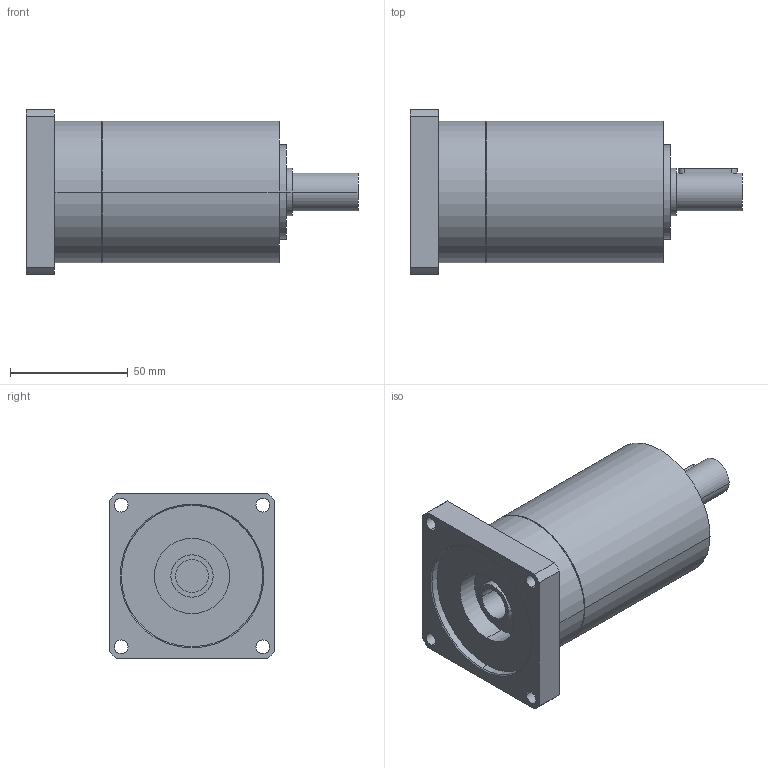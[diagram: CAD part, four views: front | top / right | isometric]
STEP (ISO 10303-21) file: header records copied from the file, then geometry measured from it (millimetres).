
FILE_DESCRIPTION(('CoCreate Modeling STEP Export'),'2;1');
FILE_NAME('GPR75_ig-9-12-16-20-24-30-36_16_B14_14_P30.stp','2014-08-25T16:03:39',(''),(''),'CoCreate Modeling STEP processor for AP214 (Solid Model)','CoCreate Modeling 16.00C 25-Feb-2009 (C) Parametric Technology GmbH','');
FILE_SCHEMA(('AUTOMOTIVE_DESIGN { 1 0 10303 214 1 1 1 1 }'));
Length unit declared in the file: millimetre
Products named in the file (2): GPR75_ig-9-12-16-20-24-30-36_16_B14_14_P30
Assembly tree (1 placements, depth 2):
  GPR75_ig-9-12-16-20-24-30-36_16_B14_14_P30
    GPR75_ig-9-12-16-20-24-30-36_16_B14_14_P30
Bounding box: 140.9 x 70 x 70 mm (x, y, z)
Volume: 316528 mm3; surface area: 37690.1 mm2
Topology: 1 solids, 1 shells, 72 faces, 187 edges, 129 vertices
Faces by surface type: cylinder 42, plane 22, cone 8
Entity records: 1954 total; most frequent: ORIENTED_EDGE 370, CARTESIAN_POINT 361, DIRECTION 268, EDGE_CURVE 185, VERTEX_POINT 129, AXIS2_PLACEMENT_3D 100, EDGE_LOOP 94, FACE_OUTER_BOUND 72
